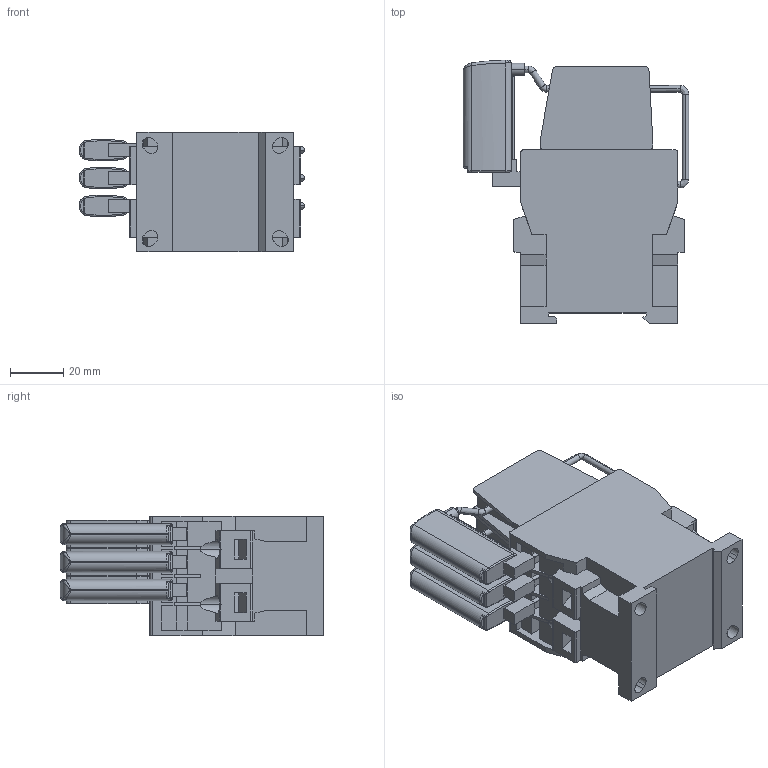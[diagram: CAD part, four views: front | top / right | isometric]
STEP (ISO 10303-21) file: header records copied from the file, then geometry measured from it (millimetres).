
FILE_DESCRIPTION (( 'STEP AP203' ), '1' );
FILE_NAME ('K3-18N K.STEP', '2014-04-23T08:51:50', ( '' ), ( '' ), 'SwSTEP 2.0', 'SolidWorks 2014', '' );
FILE_SCHEMA (( 'CONFIG_CONTROL_DESIGN' ));
Length unit declared in the file: millimetre
Products named in the file (6): HA10KM-50; Teil5^K3-18N K; K3-10N; K3-18N K; K3-18N K Draht; Vorstufenwiderstand K3-62K00
Assembly tree (13 placements, depth 2):
  K3-18N K
    K3-10N
    HA10KM-50  x3
    Vorstufenwiderstand K3-62K00  x3
    K3-18N K Draht  x3
    Teil5^K3-18N K  x3
Bounding box: 84.75 x 98.95 x 45 mm (x, y, z)
Volume: 195625 mm3; surface area: 51195.3 mm2
Topology: 13 solids, 13 shells, 668 faces, 1729 edges, 1116 vertices
Faces by surface type: plane 381, cylinder 203, torus 42, bspline 36, sphere 6
Entity records: 13861 total; most frequent: CARTESIAN_POINT 2735, ORIENTED_EDGE 2174, DIRECTION 2095, EDGE_CURVE 1087, VECTOR 795, LINE 795, VERTEX_POINT 712, AXIS2_PLACEMENT_3D 650
